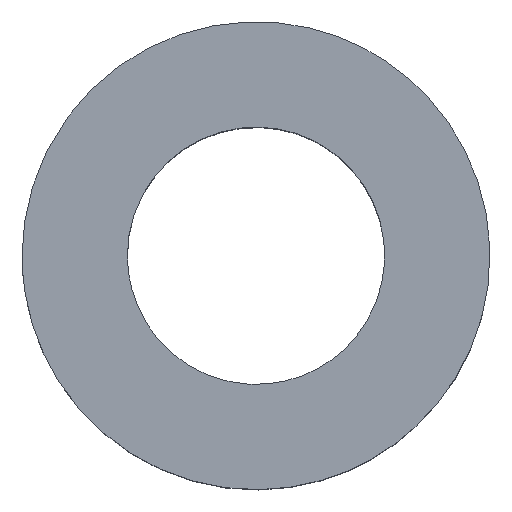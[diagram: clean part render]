
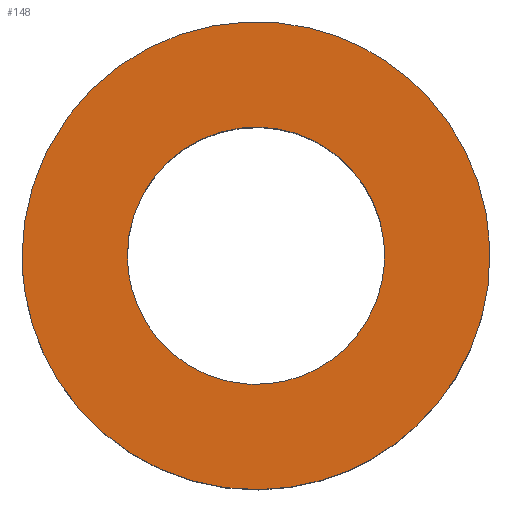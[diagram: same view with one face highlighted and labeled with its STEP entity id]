
A CAD part, top view. The second image highlights one B-rep face of the part: STEP entity #148.
In plain terms, the highlighted free-form (B-spline) face has degree [1, 1] with [2, 2] control points.
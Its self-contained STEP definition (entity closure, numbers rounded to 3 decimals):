
#115 = EDGE_CURVE('',#116,#116,#118,.T.);
#116 = VERTEX_POINT('',#117);
#117 = CARTESIAN_POINT('',(-3.,0.,2.5));
#118 = ( BOUNDED_CURVE() B_SPLINE_CURVE(2,(#119,#120,#121,#122,#123,#124
,#125),.UNSPECIFIED.,.T.,.F.) B_SPLINE_CURVE_WITH_KNOTS((1,2,2,2,2,1),(
    -2.094,0.,2.094,4.189,6.283,
8.378),.UNSPECIFIED.) CURVE() GEOMETRIC_REPRESENTATION_ITEM() 
RATIONAL_B_SPLINE_CURVE((1.,0.5,1.,0.5,1.,0.5,1.)) REPRESENTATION_ITEM(
  '') );
#119 = CARTESIAN_POINT('',(-3.,0.,2.5));
#120 = CARTESIAN_POINT('',(-3.,5.196,2.5));
#121 = CARTESIAN_POINT('',(1.5,2.598,2.5));
#122 = CARTESIAN_POINT('',(6.,0.,2.5));
#123 = CARTESIAN_POINT('',(1.5,-2.598,2.5));
#124 = CARTESIAN_POINT('',(-3.,-5.196,2.5));
#125 = CARTESIAN_POINT('',(-3.,0.,2.5));
#148 = ADVANCED_FACE('',(#149,#163),#166,.T.);
#149 = FACE_BOUND('',#150,.T.);
#150 = EDGE_LOOP('',(#151));
#151 = ORIENTED_EDGE('',*,*,#152,.T.);
#152 = EDGE_CURVE('',#153,#153,#155,.T.);
#153 = VERTEX_POINT('',#154);
#154 = CARTESIAN_POINT('',(-1.65,0.,2.5));
#155 = ( BOUNDED_CURVE() B_SPLINE_CURVE(2,(#156,#157,#158,#159,#160,#161
,#162),.UNSPECIFIED.,.T.,.F.) B_SPLINE_CURVE_WITH_KNOTS((1,2,2,2,2,1),(
    -2.094,0.,2.094,4.189,6.283,
8.378),.UNSPECIFIED.) CURVE() GEOMETRIC_REPRESENTATION_ITEM() 
RATIONAL_B_SPLINE_CURVE((1.,0.5,1.,0.5,1.,0.5,1.)) REPRESENTATION_ITEM(
  '') );
#156 = CARTESIAN_POINT('',(-1.65,0.,2.5));
#157 = CARTESIAN_POINT('',(-1.65,2.858,2.5));
#158 = CARTESIAN_POINT('',(0.825,1.429,2.5));
#159 = CARTESIAN_POINT('',(3.3,0.,2.5));
#160 = CARTESIAN_POINT('',(0.825,-1.429,2.5));
#161 = CARTESIAN_POINT('',(-1.65,-2.858,2.5));
#162 = CARTESIAN_POINT('',(-1.65,0.,2.5));
#163 = FACE_BOUND('',#164,.T.);
#164 = EDGE_LOOP('',(#165));
#165 = ORIENTED_EDGE('',*,*,#115,.F.);
#166 = B_SPLINE_SURFACE_WITH_KNOTS('',1,1,(
    (#167,#168)
    ,(#169,#170
  )),.UNSPECIFIED.,.F.,.F.,.F.,(2,2),(2,2),(0.,6.),(-3.,3.),
  .PIECEWISE_BEZIER_KNOTS.);
#167 = CARTESIAN_POINT('',(-3.,-3.,2.5));
#168 = CARTESIAN_POINT('',(-3.,3.,2.5));
#169 = CARTESIAN_POINT('',(3.,-3.,2.5));
#170 = CARTESIAN_POINT('',(3.,3.,2.5));
